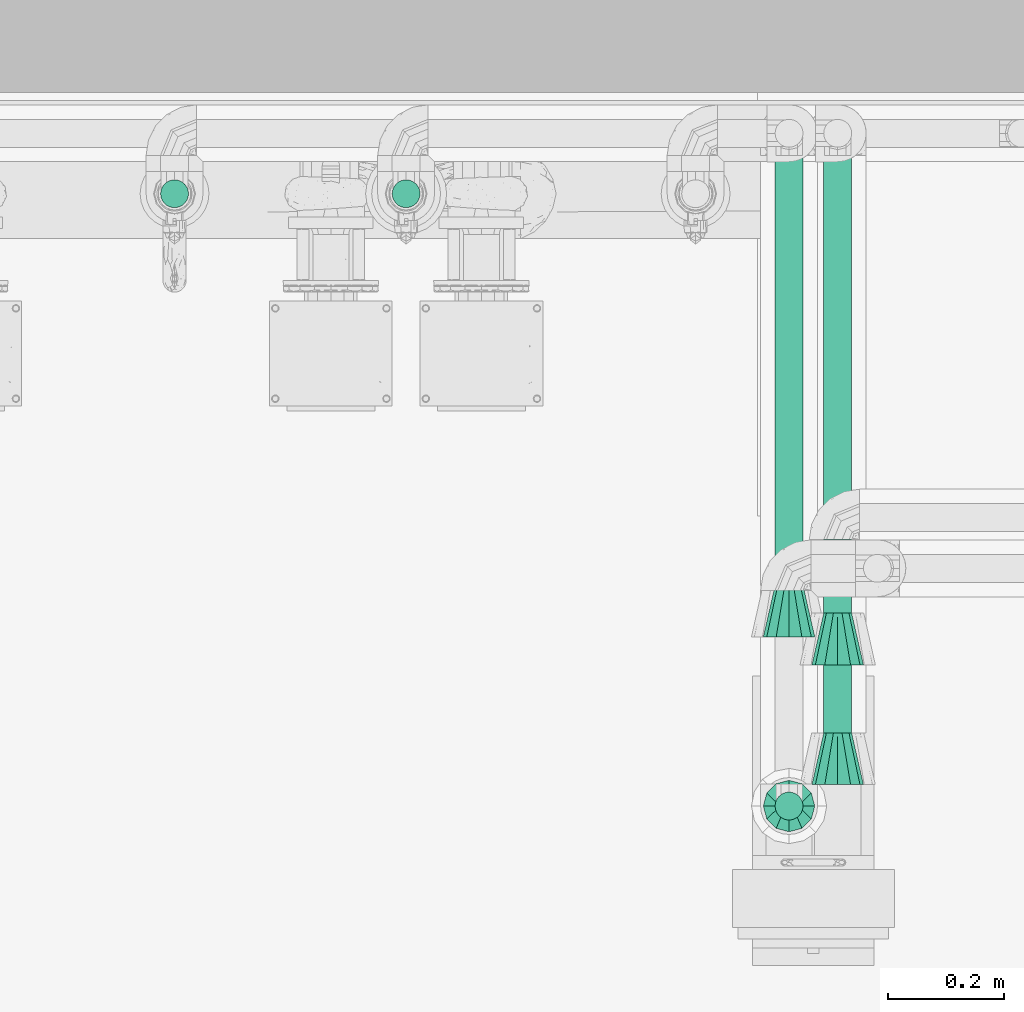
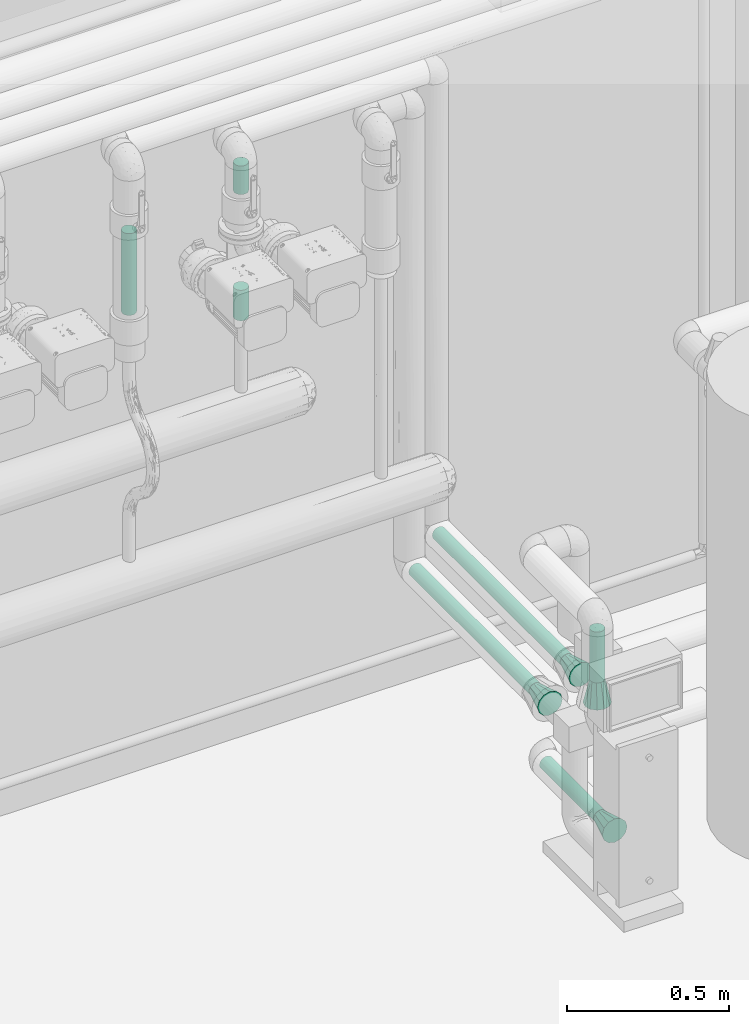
# One storey, part 84 of 94: 7 flow segments, 4 flow fittings.
"""IFC2X3 building model written with IfcOpenShell, lengths in millimetres."""

import ifcopenshell
import ifcopenshell.guid

model = None  # the IFC model being written
_history = None  # IfcOwnerHistory: only IFC2X3 demands one
_inside = {}  # id of a spatial element -> (the spatial element, [elements in it])
_under = {}  # id of a project, library or spatial element -> (it, [spatial elements below it])
_declared = {}  # id of a project -> (the project, [libraries it declares])
_typed = {}  # id of a type object -> (the type object, [elements of that type])
_made_of = {}  # id of a material, layer set ... -> (it, [elements and type objects made of it])


def new_model(schema):
    """Start an empty IFC model of exactly this schema.

    Asked for "IFC4X3", IfcOpenShell would pick the latest addendum, in which some entities
    have other attributes; the version numbers below select the first issue.
    IFC2X3 requires an IfcOwnerHistory on every rooted entity: one is made here for all.
    """
    global model, _history
    if schema == "IFC4X3":
        model = ifcopenshell.file(schema_version=(4, 3, 0, 0))
    else:
        model = ifcopenshell.file(schema=schema)
    _inside.clear()
    _under.clear()
    _declared.clear()
    _typed.clear()
    _made_of.clear()
    _history = None
    if model.schema == "IFC2X3":
        org = make("IfcOrganization", Name="unknown")
        user = make(
            "IfcPersonAndOrganization",
            ThePerson=make("IfcPerson", FamilyName="unknown"),
            TheOrganization=org,
        )
        app = make(
            "IfcApplication",
            ApplicationDeveloper=org,
            Version="unknown",
            ApplicationFullName="unknown",
            ApplicationIdentifier="unknown",
        )
        _history = make(
            "IfcOwnerHistory",
            OwningUser=user,
            OwningApplication=app,
            ChangeAction="ADDED",
            CreationDate=0,
        )
    return model


def make(cls, **values):
    """One entity of the class cls with the attributes given. An attribute that is None is left unset."""
    return model.create_entity(
        cls, **{name: value for name, value in values.items() if value is not None}
    )


def entity(cls, *values):
    """Any entity or typed value of the class cls, its attributes in the order of the schema. None: left unset."""
    e = model.create_entity(cls)
    for i, value in enumerate(values):
        if value is not None:
            e[i] = value
    return e


def rooted(cls, **values):
    """An entity with a GlobalId (a new one), such as an element, a storey or a relation."""
    return make(cls, GlobalId=ifcopenshell.guid.new(), OwnerHistory=_history, **values)


def si_unit(unit_type, name, prefix=None):
    """IfcSIUnit, for example si_unit("LENGTHUNIT", "METRE", prefix="MILLI")."""
    return make("IfcSIUnit", UnitType=unit_type, Prefix=prefix, Name=name)


def converted_unit(unit_type, name, factor, base, dimensions=None, offset=None):
    """IfcConversionBasedUnit, such as the inch: factor (a typed value) times the base unit."""
    return make(
        "IfcConversionBasedUnit"
        if offset is None
        else "IfcConversionBasedUnitWithOffset",
        ConversionOffset=offset,
        Dimensions=None
        if dimensions is None
        else entity("IfcDimensionalExponents", *dimensions),
        UnitType=unit_type,
        Name=name,
        ConversionFactor=make(
            "IfcMeasureWithUnit", ValueComponent=factor, UnitComponent=base
        ),
    )


def derived_unit(unit_type, elements):
    """IfcDerivedUnit: a product of units, each with its exponent."""
    return make(
        "IfcDerivedUnit",
        Elements=[
            make("IfcDerivedUnitElement", Unit=unit, Exponent=power)
            for unit, power in elements
        ],
        UnitType=unit_type,
    )


def assignment(units):
    """IfcUnitAssignment: the units of a project."""
    return None if units is None else make("IfcUnitAssignment", Units=units)


def point(xyz):
    """IfcCartesianPoint."""
    return None if xyz is None else make("IfcCartesianPoint", Coordinates=xyz)


def direction(xyz):
    """IfcDirection."""
    return None if xyz is None else make("IfcDirection", DirectionRatios=xyz)


def frame(location, z_axis=None, x_axis=None):
    """IfcAxis2Placement3D, a coordinate frame: its origin and axes. An axis left out is left unset."""
    return make(
        "IfcAxis2Placement3D",
        Location=point(location),
        Axis=direction(z_axis),
        RefDirection=direction(x_axis),
    )


def frame_2d(location, x_axis=None):
    """IfcAxis2Placement2D, a coordinate frame in the plane: its origin and x axis."""
    return make(
        "IfcAxis2Placement2D", Location=point(location), RefDirection=direction(x_axis)
    )


def origin():
    """The frame at (0, 0, 0) with its axes left unset."""
    return frame((0.0, 0.0, 0.0))


def origin_2d_with_axis():
    """The frame at (0, 0) in the plane with the x axis (1, 0) written out."""
    return frame_2d((0.0, 0.0), x_axis=(1.0, 0.0))


def place(relative_to, where):
    """IfcLocalPlacement: puts the frame where relative to a parent placement (None: the world)."""
    return make(
        "IfcLocalPlacement", PlacementRelTo=relative_to, RelativePlacement=where
    )


def context(
    kind, dimensions, precision=None, world=None, true_north=None, identifier=None
):
    """IfcGeometricRepresentationContext, for example the 3D "Model" context."""
    return make(
        "IfcGeometricRepresentationContext",
        ContextIdentifier=identifier,
        ContextType=kind,
        CoordinateSpaceDimension=dimensions,
        Precision=precision,
        WorldCoordinateSystem=world,
        TrueNorth=true_north,
    )


def subcontext(parent, identifier, kind, view, scale=None):
    """IfcGeometricRepresentationSubContext, for example "Body" below "Model"."""
    return make(
        "IfcGeometricRepresentationSubContext",
        ContextIdentifier=identifier,
        ContextType=kind,
        ParentContext=parent,
        TargetScale=scale,
        TargetView=view,
    )


def project(units=None, contexts=None):
    """IfcProject with its units and contexts."""
    return rooted(
        "IfcProject",
        Name="project",
        RepresentationContexts=contexts,
        UnitsInContext=assignment(units),
    )


def spatial(cls, under=None, at=None, **own):
    """A site, building, storey or space (cls), placed at a placement, below another one or the project."""
    s = rooted(cls, ObjectPlacement=at, **own)
    if under is not None:
        _under.setdefault(under.id(), (under, []))[1].append(s)
    return s


def profile(cls, at=None, kind="AREA", **sizes):
    """A parametric profile (cls). Its sizes go by their IFC names, for example OverallWidth=200.0."""
    return make(cls, ProfileType=kind, Position=at, **sizes)


def circle(**sizes):
    """IfcCircleProfileDef."""
    return profile("IfcCircleProfileDef", **sizes)


def extrude(swept, where, along, depth):
    """IfcExtrudedAreaSolid: the profile swept, set in the frame where, extruded along a direction by depth."""
    return make(
        "IfcExtrudedAreaSolid",
        SweptArea=swept,
        Position=where,
        ExtrudedDirection=direction(along),
        Depth=depth,
    )


def faces_of(points, faces, orient=None, outer=None):
    """IfcFace entities. A face is a list of loops; a loop is a list of indices into points, from 0.

    orient and outer hold one flag for each loop. By default every Orientation is true, the
    first loop of a face is its IfcFaceOuterBound and the others are IfcFaceBound.
    """
    made = []
    for i, loops in enumerate(faces):
        bounds = []
        for j, loop in enumerate(loops):
            is_outer = j == 0 if outer is None else outer[i][j]
            bounds.append(
                make(
                    "IfcFaceOuterBound" if is_outer else "IfcFaceBound",
                    Bound=make("IfcPolyLoop", Polygon=[points[k] for k in loop]),
                    Orientation=True if orient is None else orient[i][j],
                )
            )
        made.append(make("IfcFace", Bounds=bounds))
    return made


def faceted_brep(points, faces, orient=None, outer=None, voids=None):
    """IfcFacetedBrep: a solid bounded by flat faces; with voids (closed shells), ...WithVoids."""
    shared = [point(p) for p in points]
    hull = make("IfcClosedShell", CfsFaces=faces_of(shared, faces, orient, outer))
    if voids is None:
        return make("IfcFacetedBrep", Outer=hull)
    return make(
        "IfcFacetedBrepWithVoids",
        Outer=hull,
        Voids=[
            make(cls, CfsFaces=faces_of(shared, fs, o, b)) for cls, fs, o, b in voids
        ],
    )


def shape(context_of_items, identifier, shape_type, items):
    """IfcShapeRepresentation: the items that make up one representation, for example the "Body"."""
    return make(
        "IfcShapeRepresentation",
        ContextOfItems=context_of_items,
        RepresentationIdentifier=identifier,
        RepresentationType=shape_type,
        Items=items,
    )


def source(mapping_origin, context_of_items, identifier, shape_type, items):
    """IfcRepresentationMap: a shape defined once, which mapped items show again and again."""
    return make(
        "IfcRepresentationMap",
        MappingOrigin=mapping_origin,
        MappedRepresentation=shape(context_of_items, identifier, shape_type, items),
    )


def transform(
    local_origin,
    x_axis=None,
    y_axis=None,
    z_axis=None,
    scale=None,
    scale2=None,
    scale3=None,
    uniform=True,
):
    """IfcCartesianTransformationOperator3D, or its non-uniform kind. x_axis, y_axis, z_axis: its Axis1, 2, 3."""
    if uniform:
        return make(
            "IfcCartesianTransformationOperator3D",
            Axis1=direction(x_axis),
            Axis2=direction(y_axis),
            LocalOrigin=point(local_origin),
            Scale=scale,
            Axis3=direction(z_axis),
        )
    return make(
        "IfcCartesianTransformationOperator3DnonUniform",
        Axis1=direction(x_axis),
        Axis2=direction(y_axis),
        LocalOrigin=point(local_origin),
        Scale=scale,
        Axis3=direction(z_axis),
        Scale2=scale2,
        Scale3=scale3,
    )


def mapped(mapping_source, mapping_target):
    """IfcMappedItem: shows the shape of a source again, moved by a transform."""
    return make(
        "IfcMappedItem", MappingSource=mapping_source, MappingTarget=mapping_target
    )


def material(Name=None, Category=None):
    """IfcMaterial."""
    return make("IfcMaterial", Name=Name, Category=Category)


def made_of(thing, what):
    """Note that an element or type object is made of a material, layer set ...; save() writes the relation."""
    if what is not None:
        _made_of.setdefault(what.id(), (what, []))[1].append(thing)
    return thing


def type_object(cls, material=None, **own):
    """A type object (cls), such as IfcWallType, which elements share."""
    return made_of(rooted(cls, **own), material)


def type_shapes(of_type, sources):
    """Give a type object the sources (RepresentationMaps) that its elements show as mapped items."""
    of_type.RepresentationMaps = sources


def element(
    cls,
    number,
    at=None,
    inside=None,
    cuts=None,
    type_object=None,
    material=None,
    context=None,
    identifier="Body",
    shape_type=None,
    held_by="IfcProductDefinitionShape",
    body=None,
    shapes=None,
    **own,
):
    """One element of the class cls, such as IfcWall. Its Tag is "e" and its number.

    at: its placement. inside: the storey or other place that contains it. cuts: it is an
    opening in that element (IfcRelVoidsElement). A single representation is given by context,
    identifier, shape_type and body (its items); several are given by shapes. held_by: the class
    of the entity that holds the representations. save() writes the other relations.
    """
    e = rooted(cls, Tag="e%d" % number, ObjectPlacement=at, **own)
    if body is not None:
        shapes = [shape(context, identifier, shape_type, body)]
    if shapes is not None:
        e.Representation = make(held_by, Representations=shapes)
    if inside is not None:
        _inside.setdefault(inside.id(), (inside, []))[1].append(e)
    if cuts is not None:
        rooted(
            "IfcRelVoidsElement", RelatingBuildingElement=cuts, RelatedOpeningElement=e
        )
    if type_object is not None:
        _typed.setdefault(type_object.id(), (type_object, []))[1].append(e)
    return made_of(e, material)


def aggregate(whole, parts):
    """IfcRelAggregates: a whole, such as a stair, and the parts it consists of."""
    return rooted("IfcRelAggregates", RelatingObject=whole, RelatedObjects=parts)


def save(model, path):
    """Write the relations noted so far, then the file.

    IfcRelAggregates (storeys below a building ...), IfcRelContainedInSpatialStructure (elements
    in a storey), IfcRelDefinesByType, IfcRelAssociatesMaterial and IfcRelDeclares: one each for
    every whole, place, type object, material and project.
    """
    for whole, parts in _under.values():
        aggregate(whole, parts)
    for where, things in _inside.values():
        rooted(
            "IfcRelContainedInSpatialStructure",
            RelatedElements=things,
            RelatingStructure=where,
        )
    for kind, things in _typed.values():
        rooted("IfcRelDefinesByType", RelatedObjects=things, RelatingType=kind)
    for what, things in _made_of.values():
        rooted("IfcRelAssociatesMaterial", RelatedObjects=things, RelatingMaterial=what)
    for by, libraries in _declared.values():
        rooted("IfcRelDeclares", RelatingContext=by, RelatedDefinitions=libraries)
    model.write(path)


model = new_model("IFC2X3")

# Units and contexts
model_context = context("Model", 3, precision=0.01, world=origin(), true_north=direction((6.123031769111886e-17, 1.0)))
body_context = subcontext(model_context, "Body", "Model", "MODEL_VIEW")
ifc_project = project(units=[si_unit("LENGTHUNIT", "METRE", prefix="MILLI"), si_unit("AREAUNIT", "SQUARE_METRE"), si_unit("VOLUMEUNIT", "CUBIC_METRE"), converted_unit("PLANEANGLEUNIT", "DEGREE", entity("IfcRatioMeasure", 0.017453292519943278), si_unit("PLANEANGLEUNIT", "RADIAN"), dimensions=[0, 0, 0, 0, 0, 0, 0]), si_unit("MASSUNIT", "GRAM", prefix="KILO"), derived_unit("MASSDENSITYUNIT", [(si_unit("MASSUNIT", "GRAM", prefix="KILO"), 1), (si_unit("LENGTHUNIT", "METRE"), -3)]), derived_unit("IONCONCENTRATIONUNIT", [(si_unit("MASSUNIT", "GRAM", prefix="KILO"), 1), (si_unit("LENGTHUNIT", "METRE"), -3)]), derived_unit("MOMENTOFINERTIAUNIT", [(si_unit("LENGTHUNIT", "METRE"), 4)]), si_unit("TIMEUNIT", "SECOND"), si_unit("FREQUENCYUNIT", "HERTZ"), si_unit("THERMODYNAMICTEMPERATUREUNIT", "DEGREE_CELSIUS"), derived_unit("THERMALTRANSMITTANCEUNIT", [(si_unit("MASSUNIT", "GRAM", prefix="KILO"), 1), (si_unit("THERMODYNAMICTEMPERATUREUNIT", "KELVIN"), -1), (si_unit("TIMEUNIT", "SECOND"), -3)]), derived_unit("THERMALCONDUCTANCEUNIT", [(si_unit("MASSUNIT", "GRAM", prefix="KILO"), 1), (si_unit("THERMODYNAMICTEMPERATUREUNIT", "KELVIN"), -1), (si_unit("TIMEUNIT", "SECOND"), -3), (si_unit("LENGTHUNIT", "METRE"), 1)]), derived_unit("VOLUMETRICFLOWRATEUNIT", [(si_unit("LENGTHUNIT", "METRE"), 3), (si_unit("TIMEUNIT", "SECOND"), -1)]), derived_unit("MASSFLOWRATEUNIT", [(si_unit("MASSUNIT", "GRAM", prefix="KILO"), 1), (si_unit("TIMEUNIT", "SECOND"), -1)]), derived_unit("ROTATIONALFREQUENCYUNIT", [(si_unit("TIMEUNIT", "SECOND"), -1)]), si_unit("ELECTRICCURRENTUNIT", "AMPERE"), si_unit("ELECTRICVOLTAGEUNIT", "VOLT"), si_unit("POWERUNIT", "WATT"), si_unit("FORCEUNIT", "NEWTON", prefix="KILO"), si_unit("ILLUMINANCEUNIT", "LUX"), si_unit("LUMINOUSFLUXUNIT", "LUMEN"), si_unit("LUMINOUSINTENSITYUNIT", "CANDELA"), derived_unit("USERDEFINED", [(si_unit("MASSUNIT", "GRAM", prefix="KILO"), -1), (si_unit("LENGTHUNIT", "METRE"), -2), (si_unit("TIMEUNIT", "SECOND"), 3), (si_unit("LUMINOUSFLUXUNIT", "LUMEN"), 1)]), derived_unit("USERDEFINED", [(si_unit("MASSUNIT", "GRAM", prefix="KILO"), 1), (si_unit("TIMEUNIT", "SECOND"), -3), (si_unit("LENGTHUNIT", "METRE"), 3), (si_unit("ELECTRICCURRENTUNIT", "AMPERE"), -2)]), derived_unit("SOUNDPOWERUNIT", [(si_unit("MASSUNIT", "GRAM", prefix="KILO"), 1), (si_unit("TIMEUNIT", "SECOND"), -3), (si_unit("LENGTHUNIT", "METRE"), 2)]), derived_unit("SOUNDPRESSUREUNIT", [(si_unit("MASSUNIT", "GRAM", prefix="KILO"), 1), (si_unit("LENGTHUNIT", "METRE"), -1), (si_unit("TIMEUNIT", "SECOND"), -2)]), derived_unit("LINEARVELOCITYUNIT", [(si_unit("LENGTHUNIT", "METRE"), 1), (si_unit("TIMEUNIT", "SECOND"), -1)]), si_unit("PRESSUREUNIT", "PASCAL"), derived_unit("USERDEFINED", [(si_unit("MASSUNIT", "GRAM", prefix="KILO"), 1), (si_unit("LENGTHUNIT", "METRE"), -2), (si_unit("TIMEUNIT", "SECOND"), -2)]), derived_unit("LINEARFORCEUNIT", [(si_unit("MASSUNIT", "GRAM", prefix="KILO"), 1), (si_unit("TIMEUNIT", "SECOND"), -2)]), derived_unit("PLANARFORCEUNIT", [(si_unit("MASSUNIT", "GRAM", prefix="KILO"), 1), (si_unit("LENGTHUNIT", "METRE"), -1), (si_unit("TIMEUNIT", "SECOND"), -2)]), derived_unit("SPECIFICHEATCAPACITYUNIT", [(si_unit("THERMODYNAMICTEMPERATUREUNIT", "KELVIN"), -1), (si_unit("LENGTHUNIT", "METRE"), 2), (si_unit("TIMEUNIT", "SECOND"), -2)]), derived_unit("HEATINGVALUEUNIT", [(si_unit("LENGTHUNIT", "METRE"), 2), (si_unit("TIMEUNIT", "SECOND"), -2)]), derived_unit("VAPORPERMEABILITYUNIT", [(si_unit("LENGTHUNIT", "METRE"), -1), (si_unit("TIMEUNIT", "SECOND"), 1)]), derived_unit("DYNAMICVISCOSITYUNIT", [(si_unit("MASSUNIT", "GRAM", prefix="KILO"), 1), (si_unit("TIMEUNIT", "SECOND"), -1), (si_unit("LENGTHUNIT", "METRE"), -1)]), derived_unit("THERMALEXPANSIONCOEFFICIENTUNIT", [(si_unit("THERMODYNAMICTEMPERATUREUNIT", "KELVIN"), -1)]), derived_unit("MODULUSOFELASTICITYUNIT", [(si_unit("MASSUNIT", "GRAM", prefix="KILO"), 1), (si_unit("LENGTHUNIT", "METRE"), -1), (si_unit("TIMEUNIT", "SECOND"), -2)]), derived_unit("ISOTHERMALMOISTURECAPACITYUNIT", [(si_unit("LENGTHUNIT", "METRE"), 3), (si_unit("MASSUNIT", "GRAM", prefix="KILO"), -1)]), derived_unit("MOISTUREDIFFUSIVITYUNIT", [(si_unit("TIMEUNIT", "SECOND"), -1), (si_unit("LENGTHUNIT", "METRE"), 2)])], contexts=[model_context])

# Site, building, storey
site_placement = place(None, origin())
site = spatial("IfcSite", under=ifc_project, at=site_placement, Name="Default", CompositionType="ELEMENT")
building_placement = place(site_placement, origin())
building = spatial("IfcBuilding", under=site, at=building_placement, CompositionType="ELEMENT")
storey_placement = place(building_placement, origin())
storey = spatial("IfcBuildingStorey", under=building, at=storey_placement, Name="Niveau 0", CompositionType="ELEMENT", Elevation=0.0)

# Flow segments
pipe_segment_type_1 = type_object("IfcPipeSegmentType", Name="Canalisation:Bride acier", PredefinedType="NOTDEFINED")
flow_segment_1_placement = place(storey_placement, origin())
element("IfcFlowSegment", 1, at=flow_segment_1_placement, inside=storey, type_object=pipe_segment_type_1, Name="Canalisation:Bride acier", ObjectType="Canalisation:Bride acier", context=body_context, shape_type="SweptSolid", body=[
    extrude(circle(Radius=24.13, at=origin_2d_with_axis()), frame((-7010.740682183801, 9245.870419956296, 499.0), z_axis=(0.0, 1.0, 0.0), x_axis=(1.0, 0.0, 0.0)), (0.0, 0.0, 1.0), 742.9752046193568),
])
flow_segment_2_placement = place(storey_placement, origin())
element("IfcFlowSegment", 2, at=flow_segment_2_placement, inside=storey, type_object=pipe_segment_type_1, Name="Canalisation:Bride acier", ObjectType="Canalisation:Bride acier", context=body_context, shape_type="SweptSolid", body=[
    extrude(circle(Radius=24.13, at=origin_2d_with_axis()), frame((-6926.740682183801, 9197.870419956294, 608.0), z_axis=(0.0, 1.0, 0.0), x_axis=(1.0, 0.0, 0.0)), (0.0, 0.0, 1.0), 790.9752046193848),
])
flow_segment_3_placement = place(storey_placement, origin())
element("IfcFlowSegment", 3, at=flow_segment_3_placement, inside=storey, type_object=pipe_segment_type_1, Name="Canalisation:Bride acier", ObjectType="Canalisation:Bride acier", context=body_context, shape_type="SweptSolid", body=[
    extrude(circle(Radius=24.13, at=origin_2d_with_axis()), frame((-7672.1458655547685, 9922.470546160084, 2204.217478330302)), (0.0, 0.0, 1.0), 107.78252166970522),
])
flow_segment_4_placement = place(storey_placement, origin())
element("IfcFlowSegment", 4, at=flow_segment_4_placement, inside=storey, type_object=pipe_segment_type_1, Name="Canalisation:Bride acier", ObjectType="Canalisation:Bride acier", context=body_context, shape_type="SweptSolid", body=[
    extrude(circle(Radius=24.13, at=origin_2d_with_axis()), frame((-8072.145865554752, 9922.470546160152, 1887.730162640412)), (0.0, 0.0, 1.0), 308.73505846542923),
])

# Flow fittings
ifc_material = material(Name="<Unnamed>")
pipe_fitting_type = type_object("IfcPipeFittingType", Name="Transformation - Générique:Standard", PredefinedType="NOTDEFINED", material=ifc_material)
shared_shape = source(origin(), body_context, "Body", "Brep", [
    faceted_brep([(89.0, 24.14999999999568, 0.0), (89.0, 21.843880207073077, 7.097506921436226), (89.0, 19.537760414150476, 14.195013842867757), (89.0, 13.500260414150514, 18.581514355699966), (89.0, 7.462760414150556, 22.968014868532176), (89.0, 0.0, 22.968014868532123), (89.0, -7.4627604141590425, 22.968014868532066), (89.0, -13.500260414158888, 18.581514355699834), (89.0, -19.537760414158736, 14.195013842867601), (89.0, -21.843880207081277, 7.097506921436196), (89.0, -24.150000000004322, 0.0), (89.0, -21.843880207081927, -7.097506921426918), (89.0, -19.537760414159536, -14.19501384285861), (89.0, -13.50026041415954, -18.581514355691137), (89.0, -7.462760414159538, -22.96801486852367), (89.0, 0.0, -22.968014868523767), (89.0, 7.46276041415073, -22.96801486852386), (89.0, 13.50026041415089, -18.58151435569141), (89.0, 19.53776041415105, -14.195013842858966), (89.0, 21.843880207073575, -7.0975069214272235), (0.0, 30.359914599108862, 30.359914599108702), (0.0, 38.494829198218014, 22.22499999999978), (0.0, 42.22656472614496, 8.29797340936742), (0.0, 44.450000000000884, 0.0), (0.0, 42.226564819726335, -8.2979730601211), (0.0, 38.494829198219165, -22.225000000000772), (0.0, 30.359914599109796, -30.3599145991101), (0.0, 22.225000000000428, -38.49482919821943), (0.0, 11.112500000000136, -41.47241459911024), (0.0, 0.0, -44.450000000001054), (0.0, -11.112500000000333, -41.472414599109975), (0.0, -22.22500000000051, -38.494829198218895), (0.0, -30.359914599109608, -30.35991459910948), (0.0, -38.49482919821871, -22.225000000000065), (0.0, -42.2265647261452, -8.297973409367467), (0.0, -44.44999999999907, 0.0), (0.0, -42.22656481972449, 8.297973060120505), (0.0, -38.49482919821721, 22.224999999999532), (0.0, -30.359914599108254, 30.359914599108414), (0.0, -22.22499999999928, 38.49482919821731), (0.0, -11.112499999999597, 41.47241459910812), (0.0, 0.0, 44.44999999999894), (0.0, 11.112499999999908, 41.472414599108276), (0.0, 22.22499999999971, 38.494829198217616)], [[[0, 1, 2, 3, 4, 5, 6, 7, 8, 9, 10, 11, 12, 13, 14, 15, 16, 17, 18, 19]], [[20, 21, 22, 23, 24, 25, 26, 27, 28, 29, 30, 31, 32, 33, 34, 35, 36, 37, 38, 39, 40, 41, 42, 43]], [[26, 17, 27]], [[25, 18, 26]], [[17, 26, 18]], [[25, 19, 18]], [[24, 0, 19]], [[31, 14, 13]], [[17, 16, 27]], [[28, 27, 16]], [[14, 30, 15]], [[16, 15, 28]], [[12, 32, 13]], [[10, 35, 34]], [[30, 29, 15]], [[10, 34, 11]], [[25, 24, 19]], [[14, 31, 30]], [[0, 24, 23]], [[11, 33, 12]], [[12, 33, 32]], [[33, 11, 34]], [[31, 13, 32]], [[28, 15, 29]], [[38, 7, 39]], [[37, 8, 38]], [[7, 38, 8]], [[37, 9, 8]], [[36, 10, 9]], [[43, 4, 3]], [[7, 6, 39]], [[40, 39, 6]], [[4, 42, 5]], [[6, 5, 40]], [[2, 20, 3]], [[0, 23, 22]], [[42, 41, 5]], [[0, 22, 1]], [[37, 36, 9]], [[4, 43, 42]], [[10, 36, 35]], [[1, 21, 2]], [[2, 21, 20]], [[21, 1, 22]], [[43, 3, 20]], [[40, 5, 41]]]),
])
type_shapes(pipe_fitting_type, [shared_shape])
for number, where, z_axis, x_axis in (
    (5, (-7010.740682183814, 9156.870419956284, 499.0), (0.0, 0.0, 1.0), (0.0, 1.0, 0.0)),
    (6, (-6926.740682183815, 9108.870419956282, 608.0), (0.0, 0.0, 1.0), (0.0, 1.0, 0.0)),
    (7, (-6926.740682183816, 8901.870419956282, 144.0), (0.0, 0.0, 1.0), (0.0, 1.0, 0.0)),
    (8, (-7010.740682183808, 8864.870419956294, 681.0), (-1.0, 0.0, 0.0), (0.0, 0.0, 1.0)),
):
    element("IfcFlowFitting", number, at=place(storey_placement, frame(where, z_axis=z_axis, x_axis=x_axis)), inside=storey, type_object=pipe_fitting_type, material=ifc_material, Name="Transformation - Générique:Standard", ObjectType="Transformation - Générique:Standard", context=body_context, shape_type="MappedRepresentation", body=[
        mapped(shared_shape, transform((0.0, 0.0, 0.0), scale=1.0)),
    ])

# Flow segments
pipe_segment_type_2 = type_object("IfcPipeSegmentType", Name="Canalisation:Standard", PredefinedType="NOTDEFINED")
flow_segment_5_placement = place(storey_placement, origin())
element("IfcFlowSegment", 9, at=flow_segment_5_placement, inside=storey, type_object=pipe_segment_type_2, Name="Canalisation:Standard", ObjectType="Canalisation:Standard", context=body_context, shape_type="SweptSolid", body=[
    extrude(circle(Radius=24.13, at=frame_2d((0.0, -1.6919798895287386e-14), x_axis=(1.0, 0.0))), frame((-6926.740682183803, 8990.870419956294, 144.0), z_axis=(0.0, 1.0, 0.0), x_axis=(1.0, 0.0, 0.0)), (0.0, 0.0, 1.0), 334.0628383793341),
])
flow_segment_6_placement = place(storey_placement, origin())
element("IfcFlowSegment", 10, at=flow_segment_6_placement, inside=storey, type_object=pipe_segment_type_2, Name="Canalisation:Standard", ObjectType="Canalisation:Standard", context=body_context, shape_type="SweptSolid", body=[
    extrude(circle(Radius=24.13, at=origin_2d_with_axis()), frame((-7672.145865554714, 9922.470546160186, 1727.60345755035)), (0.0, 0.0, 1.0), 115.12670509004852),
])
flow_segment_7_placement = place(storey_placement, origin())
element("IfcFlowSegment", 11, at=flow_segment_7_placement, inside=storey, type_object=pipe_segment_type_2, Name="Canalisation:Standard", ObjectType="Canalisation:Standard", context=body_context, shape_type="SweptSolid", body=[
    extrude(circle(Radius=24.13, at=origin_2d_with_axis()), frame((-7010.740682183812, 8864.87041995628, 770.0), z_axis=(0.0, 0.0, 1.0), x_axis=(-1.0, 0.0, 0.0)), (0.0, 0.0, 1.0), 191.99999999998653),
])

save(model, "model.ifc")
